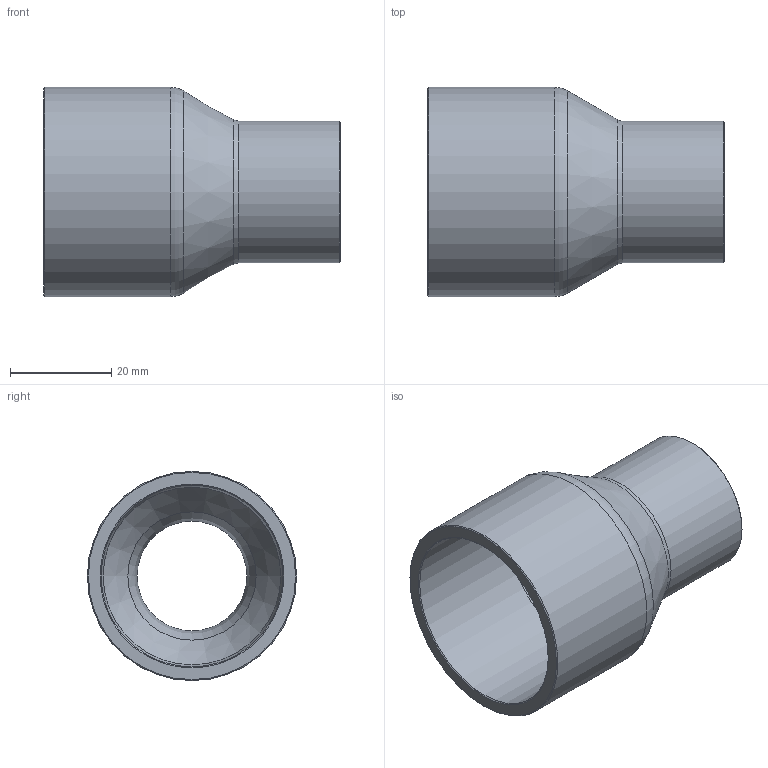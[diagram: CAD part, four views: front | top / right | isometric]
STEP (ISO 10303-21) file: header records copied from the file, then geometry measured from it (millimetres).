
FILE_DESCRIPTION((''),'2;1');
FILE_NAME('G:\SANHA-Ternat\Technik\Management\Bouwmaten + markeringen\z-maattekeningen 3D\29000s\2924315878_3d.stp','2017-08-03T16:29:15',('vdvijverd'),(''),'Autodesk Inventor 2009','Autodesk Inventor 2009','');
FILE_SCHEMA(('AUTOMOTIVE_DESIGN { 1 0 10303 214 1 1 1 1 }'));
Length unit declared in the file: millimetre
Products named in the file (1): 2924315878_3d
Bounding box: 58.4 x 41.27 x 41.27 mm (x, y, z)
Volume: 17294.8 mm3; surface area: 12738.1 mm2
Topology: 1 solids, 1 shells, 17 faces, 32 edges, 17 vertices
Faces by surface type: cone 6, cylinder 4, bspline 3, plane 2, torus 2
Full cylindrical faces by diameter (mm): 22.375 x1, 27.975 x1, 35.875 x1, 41.275 x1
Entity records: 494 total; most frequent: CARTESIAN_POINT 184, DIRECTION 64, ORIENTED_EDGE 34, EDGE_LOOP 34, AXIS2_PLACEMENT_3D 32, VERTEX_POINT 17, CIRCLE 17, EDGE_CURVE 17
